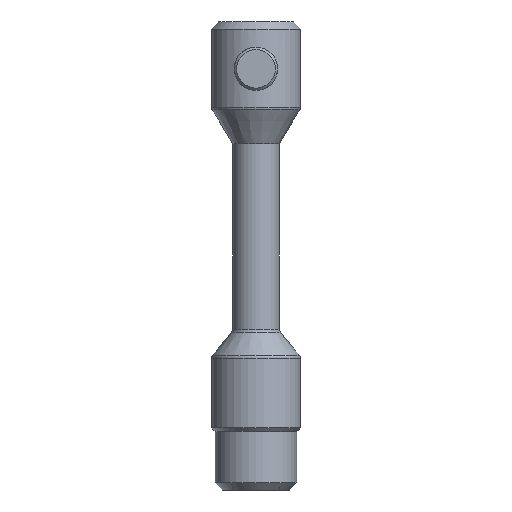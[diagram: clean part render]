
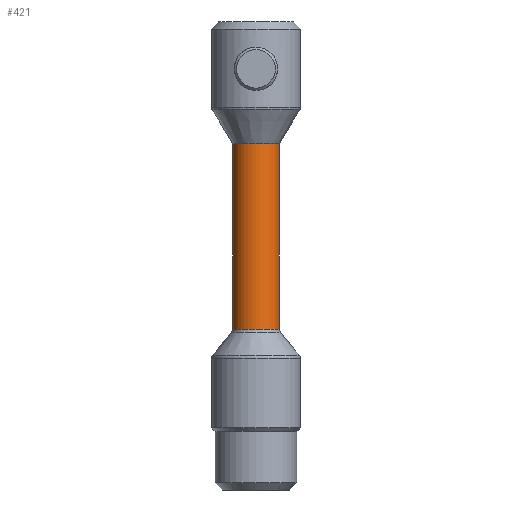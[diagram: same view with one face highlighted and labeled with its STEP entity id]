
A CAD part, left-side view. The second image highlights one B-rep face of the part: STEP entity #421.
In plain terms, the highlighted cylindrical face has radius 10 mm (diameter 20 mm), a full revolution.
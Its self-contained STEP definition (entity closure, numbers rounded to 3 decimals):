
#42=LINE('',#798,#68);
#68=VECTOR('',#590,10.);
#91=CYLINDRICAL_SURFACE('',#491,10.);
#102=FACE_OUTER_BOUND('',#128,.T.);
#128=EDGE_LOOP('',(#341,#342,#343,#344,#345,#346,#347));
#155=CIRCLE('',#470,10.);
#156=CIRCLE('',#471,10.);
#168=CIRCLE('',#487,10.);
#170=CIRCLE('',#489,10.);
#171=CIRCLE('',#490,10.);
#191=VERTEX_POINT('',#758);
#192=VERTEX_POINT('',#760);
#203=VERTEX_POINT('',#790);
#204=VERTEX_POINT('',#791);
#205=VERTEX_POINT('',#794);
#237=EDGE_CURVE('',#192,#191,#155,.T.);
#238=EDGE_CURVE('',#191,#192,#156,.T.);
#252=EDGE_CURVE('',#203,#204,#168,.T.);
#254=EDGE_CURVE('',#204,#205,#170,.T.);
#255=EDGE_CURVE('',#205,#203,#171,.T.);
#256=EDGE_CURVE('',#191,#205,#42,.T.);
#341=ORIENTED_EDGE('',*,*,#237,.T.);
#342=ORIENTED_EDGE('',*,*,#256,.T.);
#343=ORIENTED_EDGE('',*,*,#254,.F.);
#344=ORIENTED_EDGE('',*,*,#252,.F.);
#345=ORIENTED_EDGE('',*,*,#255,.F.);
#346=ORIENTED_EDGE('',*,*,#256,.F.);
#347=ORIENTED_EDGE('',*,*,#238,.T.);
#421=ADVANCED_FACE('',(#102),#91,.T.);
#470=AXIS2_PLACEMENT_3D('',#761,#544,#545);
#471=AXIS2_PLACEMENT_3D('',#762,#546,#547);
#487=AXIS2_PLACEMENT_3D('',#792,#580,#581);
#489=AXIS2_PLACEMENT_3D('',#795,#584,#585);
#490=AXIS2_PLACEMENT_3D('',#796,#586,#587);
#491=AXIS2_PLACEMENT_3D('',#797,#588,#589);
#544=DIRECTION('center_axis',(0.,0.,-1.));
#545=DIRECTION('ref_axis',(1.,0.,0.));
#546=DIRECTION('center_axis',(0.,0.,-1.));
#547=DIRECTION('ref_axis',(1.,0.,0.));
#580=DIRECTION('center_axis',(0.,0.,-1.));
#581=DIRECTION('ref_axis',(0.,-1.,0.));
#584=DIRECTION('center_axis',(0.,0.,-1.));
#585=DIRECTION('ref_axis',(0.,-1.,0.));
#586=DIRECTION('center_axis',(0.,0.,-1.));
#587=DIRECTION('ref_axis',(0.,-1.,0.));
#588=DIRECTION('center_axis',(0.,0.,-1.));
#589=DIRECTION('ref_axis',(0.,1.,0.));
#590=DIRECTION('',(0.,0.,-1.));
#758=CARTESIAN_POINT('',(0.,-10.,148.));
#760=CARTESIAN_POINT('',(0.,10.,148.));
#761=CARTESIAN_POINT('Origin',(0.,0.,148.));
#762=CARTESIAN_POINT('Origin',(0.,0.,148.));
#790=CARTESIAN_POINT('',(0.,10.,68.714));
#791=CARTESIAN_POINT('',(10.,0.,68.714));
#792=CARTESIAN_POINT('Origin',(0.,0.,68.714));
#794=CARTESIAN_POINT('',(0.,-10.,68.714));
#795=CARTESIAN_POINT('Origin',(0.,0.,68.714));
#796=CARTESIAN_POINT('Origin',(0.,0.,68.714));
#797=CARTESIAN_POINT('Origin',(0.,0.,108.));
#798=CARTESIAN_POINT('',(0.,-10.,108.));
